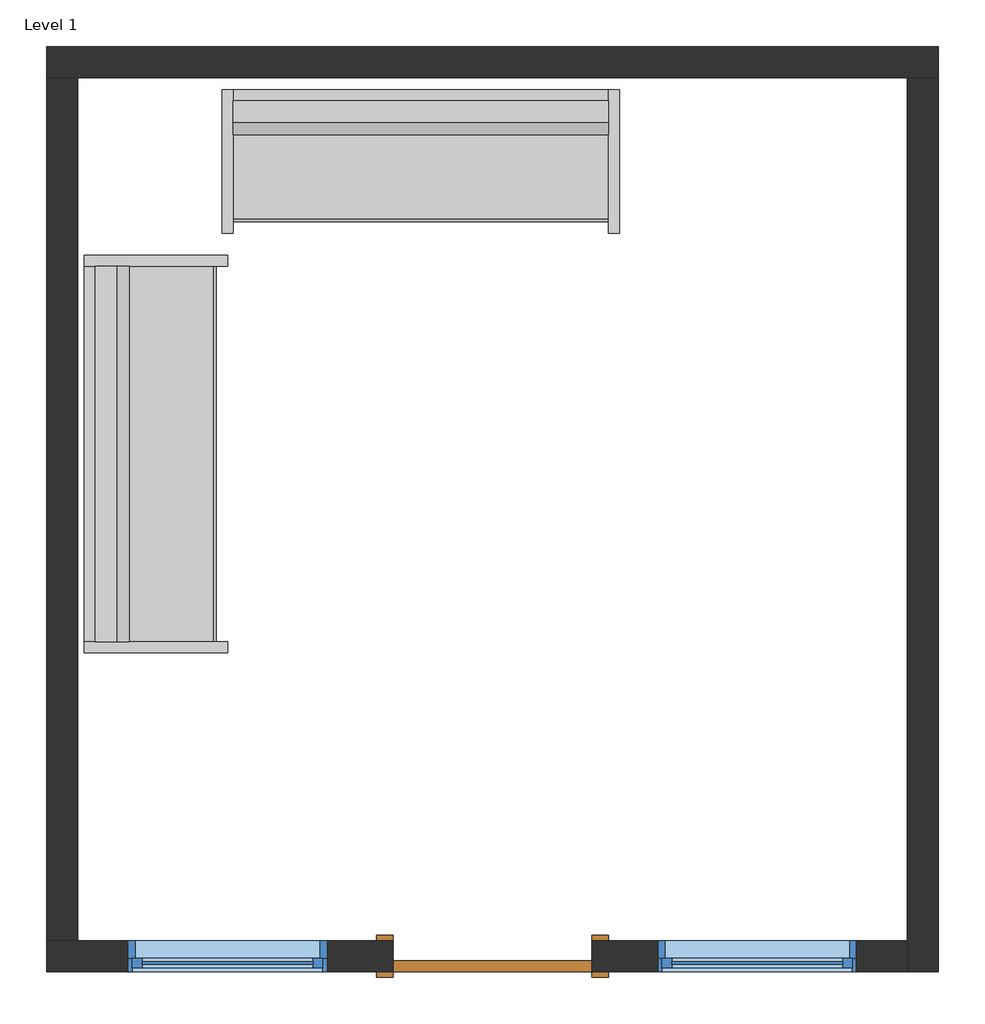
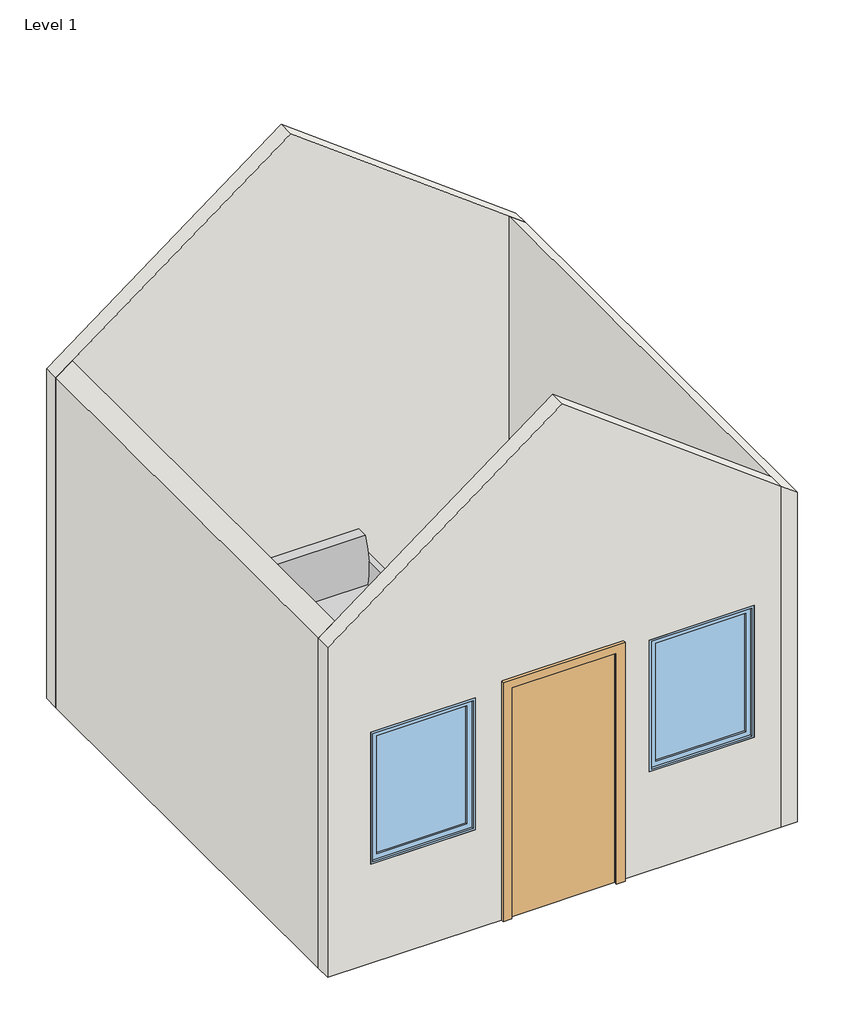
# One storey: 4 walls, 2 furniture elements, 2 windows, 1 door.
"""IFC4 building model written with IfcOpenShell, lengths in millimetres."""

import ifcopenshell
import ifcopenshell.guid

model = None  # the IFC model being written
_history = None  # IfcOwnerHistory: only IFC2X3 demands one
_inside = {}  # id of a spatial element -> (the spatial element, [elements in it])
_under = {}  # id of a project, library or spatial element -> (it, [spatial elements below it])
_declared = {}  # id of a project -> (the project, [libraries it declares])
_typed = {}  # id of a type object -> (the type object, [elements of that type])
_made_of = {}  # id of a material, layer set ... -> (it, [elements and type objects made of it])


def new_model(schema):
    """Start an empty IFC model of exactly this schema.

    Asked for "IFC4X3", IfcOpenShell would pick the latest addendum, in which some entities
    have other attributes; the version numbers below select the first issue.
    IFC2X3 requires an IfcOwnerHistory on every rooted entity: one is made here for all.
    """
    global model, _history
    if schema == "IFC4X3":
        model = ifcopenshell.file(schema_version=(4, 3, 0, 0))
    else:
        model = ifcopenshell.file(schema=schema)
    _inside.clear()
    _under.clear()
    _declared.clear()
    _typed.clear()
    _made_of.clear()
    _history = None
    if model.schema == "IFC2X3":
        org = make("IfcOrganization", Name="unknown")
        user = make(
            "IfcPersonAndOrganization",
            ThePerson=make("IfcPerson", FamilyName="unknown"),
            TheOrganization=org,
        )
        app = make(
            "IfcApplication",
            ApplicationDeveloper=org,
            Version="unknown",
            ApplicationFullName="unknown",
            ApplicationIdentifier="unknown",
        )
        _history = make(
            "IfcOwnerHistory",
            OwningUser=user,
            OwningApplication=app,
            ChangeAction="ADDED",
            CreationDate=0,
        )
    return model


def make(cls, **values):
    """One entity of the class cls with the attributes given. An attribute that is None is left unset."""
    return model.create_entity(
        cls, **{name: value for name, value in values.items() if value is not None}
    )


def rooted(cls, **values):
    """An entity with a GlobalId (a new one), such as an element, a storey or a relation."""
    return make(cls, GlobalId=ifcopenshell.guid.new(), OwnerHistory=_history, **values)


def si_unit(unit_type, name, prefix=None):
    """IfcSIUnit, for example si_unit("LENGTHUNIT", "METRE", prefix="MILLI")."""
    return make("IfcSIUnit", UnitType=unit_type, Prefix=prefix, Name=name)


def assignment(units):
    """IfcUnitAssignment: the units of a project."""
    return None if units is None else make("IfcUnitAssignment", Units=units)


def point(xyz):
    """IfcCartesianPoint."""
    return None if xyz is None else make("IfcCartesianPoint", Coordinates=xyz)


def direction(xyz):
    """IfcDirection."""
    return None if xyz is None else make("IfcDirection", DirectionRatios=xyz)


def frame(location, z_axis=None, x_axis=None):
    """IfcAxis2Placement3D, a coordinate frame: its origin and axes. An axis left out is left unset."""
    return make(
        "IfcAxis2Placement3D",
        Location=point(location),
        Axis=direction(z_axis),
        RefDirection=direction(x_axis),
    )


def frame_2d(location, x_axis=None):
    """IfcAxis2Placement2D, a coordinate frame in the plane: its origin and x axis."""
    return make(
        "IfcAxis2Placement2D", Location=point(location), RefDirection=direction(x_axis)
    )


def origin():
    """The frame at (0, 0, 0) with its axes left unset."""
    return frame((0.0, 0.0, 0.0))


def origin_with_axes():
    """The frame at (0, 0, 0) with the z axis (0, 0, 1) and the x axis (1, 0, 0) written out."""
    return frame((0.0, 0.0, 0.0), z_axis=(0.0, 0.0, 1.0), x_axis=(1.0, 0.0, 0.0))


def place(relative_to, where):
    """IfcLocalPlacement: puts the frame where relative to a parent placement (None: the world)."""
    return make(
        "IfcLocalPlacement", PlacementRelTo=relative_to, RelativePlacement=where
    )


def context(
    kind, dimensions, precision=None, world=None, true_north=None, identifier=None
):
    """IfcGeometricRepresentationContext, for example the 3D "Model" context."""
    return make(
        "IfcGeometricRepresentationContext",
        ContextIdentifier=identifier,
        ContextType=kind,
        CoordinateSpaceDimension=dimensions,
        Precision=precision,
        WorldCoordinateSystem=world,
        TrueNorth=true_north,
    )


def project(units=None, contexts=None):
    """IfcProject with its units and contexts."""
    return rooted(
        "IfcProject",
        Name="project",
        RepresentationContexts=contexts,
        UnitsInContext=assignment(units),
    )


def spatial(cls, under=None, at=None, **own):
    """A site, building, storey or space (cls), placed at a placement, below another one or the project."""
    s = rooted(cls, ObjectPlacement=at, **own)
    if under is not None:
        _under.setdefault(under.id(), (under, []))[1].append(s)
    return s


def polyline(points):
    """IfcPolyline through the points."""
    return make("IfcPolyline", Points=[point(p) for p in points])


def circle_curve(where, radius):
    """IfcCircle in the frame where."""
    return make("IfcCircle", Position=where, Radius=radius)


def trimmed(basis, trim1, trim2, sense, master):
    """IfcTrimmedCurve: the piece of a basis curve between two trims."""
    return make(
        "IfcTrimmedCurve",
        BasisCurve=basis,
        Trim1=trim1,
        Trim2=trim2,
        SenseAgreement=sense,
        MasterRepresentation=master,
    )


def segment(curve, same_sense, transition):
    """IfcCompositeCurveSegment."""
    return make(
        "IfcCompositeCurveSegment",
        Transition=transition,
        SameSense=same_sense,
        ParentCurve=curve,
    )


def composite_curve(segments, self_intersect=None):
    """IfcCompositeCurve: segments joined end to end."""
    return make("IfcCompositeCurve", Segments=segments, SelfIntersect=self_intersect)


def outline(outer, holes=None, kind="AREA"):
    """IfcArbitraryClosedProfileDef: a profile drawn as a closed curve; with holes, ...WithVoids."""
    if holes is None:
        return make("IfcArbitraryClosedProfileDef", ProfileType=kind, OuterCurve=outer)
    return make(
        "IfcArbitraryProfileDefWithVoids",
        ProfileType=kind,
        OuterCurve=outer,
        InnerCurves=holes,
    )


def extrude(swept, where, along, depth):
    """IfcExtrudedAreaSolid: the profile swept, set in the frame where, extruded along a direction by depth."""
    return make(
        "IfcExtrudedAreaSolid",
        SweptArea=swept,
        Position=where,
        ExtrudedDirection=direction(along),
        Depth=depth,
    )


def faces_of(points, faces, orient=None, outer=None):
    """IfcFace entities. A face is a list of loops; a loop is a list of indices into points, from 0.

    orient and outer hold one flag for each loop. By default every Orientation is true, the
    first loop of a face is its IfcFaceOuterBound and the others are IfcFaceBound.
    """
    made = []
    for i, loops in enumerate(faces):
        bounds = []
        for j, loop in enumerate(loops):
            is_outer = j == 0 if outer is None else outer[i][j]
            bounds.append(
                make(
                    "IfcFaceOuterBound" if is_outer else "IfcFaceBound",
                    Bound=make("IfcPolyLoop", Polygon=[points[k] for k in loop]),
                    Orientation=True if orient is None else orient[i][j],
                )
            )
        made.append(make("IfcFace", Bounds=bounds))
    return made


def faceted_brep(points, faces, orient=None, outer=None, voids=None):
    """IfcFacetedBrep: a solid bounded by flat faces; with voids (closed shells), ...WithVoids."""
    shared = [point(p) for p in points]
    hull = make("IfcClosedShell", CfsFaces=faces_of(shared, faces, orient, outer))
    if voids is None:
        return make("IfcFacetedBrep", Outer=hull)
    return make(
        "IfcFacetedBrepWithVoids",
        Outer=hull,
        Voids=[
            make(cls, CfsFaces=faces_of(shared, fs, o, b)) for cls, fs, o, b in voids
        ],
    )


def shape(context_of_items, identifier, shape_type, items):
    """IfcShapeRepresentation: the items that make up one representation, for example the "Body"."""
    return make(
        "IfcShapeRepresentation",
        ContextOfItems=context_of_items,
        RepresentationIdentifier=identifier,
        RepresentationType=shape_type,
        Items=items,
    )


def source(mapping_origin, context_of_items, identifier, shape_type, items):
    """IfcRepresentationMap: a shape defined once, which mapped items show again and again."""
    return make(
        "IfcRepresentationMap",
        MappingOrigin=mapping_origin,
        MappedRepresentation=shape(context_of_items, identifier, shape_type, items),
    )


def transform(
    local_origin,
    x_axis=None,
    y_axis=None,
    z_axis=None,
    scale=None,
    scale2=None,
    scale3=None,
    uniform=True,
):
    """IfcCartesianTransformationOperator3D, or its non-uniform kind. x_axis, y_axis, z_axis: its Axis1, 2, 3."""
    if uniform:
        return make(
            "IfcCartesianTransformationOperator3D",
            Axis1=direction(x_axis),
            Axis2=direction(y_axis),
            LocalOrigin=point(local_origin),
            Scale=scale,
            Axis3=direction(z_axis),
        )
    return make(
        "IfcCartesianTransformationOperator3DnonUniform",
        Axis1=direction(x_axis),
        Axis2=direction(y_axis),
        LocalOrigin=point(local_origin),
        Scale=scale,
        Axis3=direction(z_axis),
        Scale2=scale2,
        Scale3=scale3,
    )


def mapped(mapping_source, mapping_target):
    """IfcMappedItem: shows the shape of a source again, moved by a transform."""
    return make(
        "IfcMappedItem", MappingSource=mapping_source, MappingTarget=mapping_target
    )


def made_of(thing, what):
    """Note that an element or type object is made of a material, layer set ...; save() writes the relation."""
    if what is not None:
        _made_of.setdefault(what.id(), (what, []))[1].append(thing)
    return thing


def element(
    cls,
    number,
    at=None,
    inside=None,
    cuts=None,
    type_object=None,
    material=None,
    context=None,
    identifier="Body",
    shape_type=None,
    held_by="IfcProductDefinitionShape",
    body=None,
    shapes=None,
    **own,
):
    """One element of the class cls, such as IfcWall. Its Tag is "e" and its number.

    at: its placement. inside: the storey or other place that contains it. cuts: it is an
    opening in that element (IfcRelVoidsElement). A single representation is given by context,
    identifier, shape_type and body (its items); several are given by shapes. held_by: the class
    of the entity that holds the representations. save() writes the other relations.
    """
    e = rooted(cls, Tag="e%d" % number, ObjectPlacement=at, **own)
    if body is not None:
        shapes = [shape(context, identifier, shape_type, body)]
    if shapes is not None:
        e.Representation = make(held_by, Representations=shapes)
    if inside is not None:
        _inside.setdefault(inside.id(), (inside, []))[1].append(e)
    if cuts is not None:
        rooted(
            "IfcRelVoidsElement", RelatingBuildingElement=cuts, RelatedOpeningElement=e
        )
    if type_object is not None:
        _typed.setdefault(type_object.id(), (type_object, []))[1].append(e)
    return made_of(e, material)


def aggregate(whole, parts):
    """IfcRelAggregates: a whole, such as a stair, and the parts it consists of."""
    return rooted("IfcRelAggregates", RelatingObject=whole, RelatedObjects=parts)


def save(model, path):
    """Write the relations noted so far, then the file.

    IfcRelAggregates (storeys below a building ...), IfcRelContainedInSpatialStructure (elements
    in a storey), IfcRelDefinesByType, IfcRelAssociatesMaterial and IfcRelDeclares: one each for
    every whole, place, type object, material and project.
    """
    for whole, parts in _under.values():
        aggregate(whole, parts)
    for where, things in _inside.values():
        rooted(
            "IfcRelContainedInSpatialStructure",
            RelatedElements=things,
            RelatingStructure=where,
        )
    for kind, things in _typed.values():
        rooted("IfcRelDefinesByType", RelatedObjects=things, RelatingType=kind)
    for what, things in _made_of.values():
        rooted("IfcRelAssociatesMaterial", RelatedObjects=things, RelatingMaterial=what)
    for by, libraries in _declared.values():
        rooted("IfcRelDeclares", RelatingContext=by, RelatedDefinitions=libraries)
    model.write(path)


def door_3dff5d0e(model_context):
    return source(origin(), model_context, "Body", "SweptSolid", [
        extrude(outline(polyline([(2209.8, -533.4), (0.0, -533.4), (0.0, -457.2), (2133.6, -457.2), (2133.6, 457.2), (0.0, 457.2), (0.0, 533.4), (2209.8, 533.4), (2209.8, -533.4)])), frame((0.0, 71.4375, 0.0), z_axis=(0.0, 1.0, 0.0), x_axis=(0.0, 0.0, 1.0)), (0.0, 0.0, 1.0), 25.4),
        extrude(outline(polyline([(2209.8, 533.4), (2209.8, -533.4), (0.0, -533.4), (0.0, -457.2), (2133.6, -457.2), (2133.6, 457.2), (0.0, 457.2), (0.0, 533.4), (2209.8, 533.4)])), frame((0.0, -96.8375, 0.0), z_axis=(0.0, 1.0, 0.0), x_axis=(0.0, 0.0, 1.0)), (0.0, 0.0, 1.0), 25.4),
        extrude(outline(polyline([(457.2, 20.6375), (-457.2, 20.6375), (-457.2, 71.4375), (457.2, 71.4375), (457.2, 20.6375)])), origin_with_axes(), (0.0, 0.0, 1.0), 2133.6),
    ])


def furniture_a4ffab56(model_context):
    return source(origin(), model_context, "Body", "SweptSolid", [
        extrude(outline(polyline([(-793.2295082, 425.5540984), (-793.2295082, 476.3540984), (933.9704918, 476.3540984), (933.9704918, 425.5540984), (-793.2295082, 425.5540984)])), frame((0.0, 0.0, 457.2), z_axis=(0.0, 0.0, 1.0), x_axis=(1.0, 0.0, 0.0)), (0.0, 0.0, 1.0), 127.0),
        extrude(outline(polyline([(-793.2295082, 425.5540984), (-793.2295082, 476.3540984), (933.9704918, 476.3540984), (933.9704918, 425.5540984), (-793.2295082, 425.5540984)])), frame((0.0, 0.0, 266.7), z_axis=(0.0, 0.0, 1.0), x_axis=(1.0, 0.0, 0.0)), (0.0, 0.0, 1.0), 127.0),
        extrude(outline(polyline([(-793.2295082, 425.5540984), (-793.2295082, 476.3540984), (933.9704918, 476.3540984), (933.9704918, 425.5540984), (-793.2295082, 425.5540984)])), frame((0.0, 0.0, 76.2), z_axis=(0.0, 0.0, 1.0), x_axis=(1.0, 0.0, 0.0)), (0.0, 0.0, 1.0), 127.0),
        extrude(outline(composite_curve([segment(trimmed(circle_curve(frame_2d((926.517198, 542.5300036)), 660.4), [point((286.1764935, 381.0))], [point((323.9540984, 812.8))], False, "CARTESIAN"), True, "CONTINUOUS"), segment(polyline([(323.9540984, 812.8), (425.5540984, 812.8), (425.5540984, 127.9665467), (-111.108343, 127.9665467), (-132.0379563, 367.1931221)]), True, "CONTINUOUS"), segment(trimmed(circle_curve(frame_2d((-119.3862837, 368.3)), 12.7), [point((-132.0379563, 367.1931221))], [point((-119.3862837, 381.0))], False, "CARTESIAN"), True, "CONTINUOUS"), segment(polyline([(-119.3862837, 381.0), (286.1764935, 381.0)]), True, "CONTINUOUS")], self_intersect=False)), frame((-793.2295082, 0.0, 0.0), z_axis=(1.0, 0.0, 0.0), x_axis=(0.0, 1.0, 0.0)), (0.0, 0.0, 1.0), 1727.2),
        extrude(outline(polyline([(-844.0295082, 476.3540984), (-793.2295082, 476.3540984), (-793.2295082, -184.0459016), (-844.0295082, -184.0459016), (-844.0295082, 476.3540984)])), origin_with_axes(), (0.0, 0.0, 1.0), 609.6),
        extrude(outline(polyline([(984.7704918, 476.3540984), (984.7704918, -184.0459016), (933.9704918, -184.0459016), (933.9704918, 476.3540984), (984.7704918, 476.3540984)])), origin_with_axes(), (0.0, 0.0, 1.0), 609.6),
    ])


def window_51b933d5(model_context):
    return source(origin(), model_context, "Body", "SweptSolid", [
        extrude(outline(polyline([(355.6, 23.8125), (-431.8, 23.8125), (-431.8, 36.5125), (355.6, 36.5125), (355.6, 23.8125)])), frame((0.0, 0.0, 977.9), z_axis=(0.0, 0.0, 1.0), x_axis=(1.0, 0.0, 0.0)), (0.0, 0.0, 1.0), 1092.2),
        extrude(outline(polyline([(2114.55, -476.25), (933.45, -476.25), (933.45, 400.05), (2114.55, 400.05), (2114.55, -476.25)]), holes=[polyline([(2070.1, -431.8), (2070.1, 355.6), (977.9, 355.6), (977.9, -431.8), (2070.1, -431.8)])]), frame((0.0, 7.9375, 0.0), z_axis=(0.0, 1.0, 0.0), x_axis=(0.0, 0.0, 1.0)), (0.0, 0.0, 1.0), 44.45),
        extrude(outline(polyline([(2133.6, -495.3), (914.4, -495.3), (914.4, 419.1), (2133.6, 419.1), (2133.6, -495.3)]), holes=[polyline([(2101.85, -463.55), (2101.85, 387.35), (946.15, 387.35), (946.15, -463.55), (2101.85, -463.55)])]), frame((0.0, -71.4375, 0.0), z_axis=(0.0, 1.0, 0.0), x_axis=(0.0, 0.0, 1.0)), (0.0, 0.0, 1.0), 79.375),
        extrude(outline(polyline([(2133.6, 419.1), (2133.6, -495.3), (914.4, -495.3), (914.4, 419.1), (2133.6, 419.1)]), holes=[polyline([(2114.55, 400.05), (933.45, 400.05), (933.45, -476.25), (2114.55, -476.25), (2114.55, 400.05)])]), frame((0.0, 7.9375, 0.0), z_axis=(0.0, 1.0, 0.0), x_axis=(0.0, 0.0, 1.0)), (0.0, 0.0, 1.0), 63.5),
    ])


model = new_model("IFC4")

# Units and contexts
model_context = context("Model", 3, world=origin())
ifc_project = project(units=[si_unit("LENGTHUNIT", "METRE", prefix="MILLI")], contexts=[model_context])

# Site, building, storey
site = spatial("IfcSite", under=ifc_project)
building = spatial("IfcBuilding", under=site)
storey = spatial("IfcBuildingStorey", under=building, Name="Level 1", Elevation=0.0)

# Door
placement = place(None, origin())
door_shape = door_3dff5d0e(model_context)
element("IfcDoor", 1, ObjectType="Single-Flush : 36\" x 84\"", at=placement, inside=storey, context=model_context, shape_type="MappedRepresentation", body=[
    mapped(door_shape, transform((3359.7334534, 3318.3096995, 0.0), x_axis=(-1.0, 0.0, 0.0), y_axis=(0.0, -1.0, 0.0), z_axis=(0.0, 0.0, 1.0))),
])

# Furniture
furniture_shape = furniture_a4ffab56(model_context)
element("IfcFurniture", 2, ObjectType="Sofa : 72\"", at=placement, inside=storey, context=model_context, shape_type="MappedRepresentation", body=[
    mapped(furniture_shape, transform((2959.1629616, 6829.7556011, 0.0), x_axis=(1.0, 0.0, 0.0), y_axis=(0.0, 1.0, 0.0), z_axis=(0.0, 0.0, 1.0))),
])
element("IfcFurniture", 3, ObjectType="Sofa : 72\"", at=placement, inside=storey, context=model_context, shape_type="MappedRepresentation", body=[
    mapped(furniture_shape, transform((1956.4875517, 5559.3392077, 0.0), x_axis=(0.0, 1.0, 0.0), y_axis=(-1.0, 0.0, 0.0), z_axis=(0.0, 0.0, 1.0))),
])

# Walls
element("IfcWall", 4, ObjectType="Generic - 6\" Masonry", at=placement, inside=storey, context=model_context, shape_type="Brep", body=[
    faceted_brep([(1307.0959534, 7361.6721995, 0.0), (1449.9709534, 7361.6721995, 0.0), (5269.4959534, 7361.6721995, 0.0), (5412.3709534, 7361.6721995, 0.0), (5412.3709534, 7361.6721995, 3048.0), (5269.4959534, 7361.6721995, 3155.15625), (3359.7334534, 7361.6721995, 4587.478125), (1449.9709534, 7361.6721995, 3155.15625), (1307.0959534, 7361.6721995, 3048.0), (1307.0959534, 7504.5471995, 0.0), (1307.0959534, 7504.5471995, 3048.0), (3359.7334534, 7504.5471995, 4587.478125), (5412.3709534, 7504.5471995, 3048.0), (5412.3709534, 7504.5471995, 0.0)], [[[0, 1, 2, 3, 4, 5, 6, 7, 8]], [[9, 10, 11, 12, 13]], [[3, 2, 1, 0, 9, 13]], [[4, 3, 13, 12]], [[0, 8, 10, 9]], [[8, 7, 6, 11, 10]], [[6, 5, 4, 12, 11]]]),
])
element("IfcWall", 5, ObjectType="Generic - 6\" Masonry", at=placement, inside=storey, context=model_context, shape_type="Brep", body=[
    faceted_brep([(5269.4959534, 7361.6721995, 0.0), (5269.4959534, 3389.7471995, 0.0), (5269.4959534, 3246.8721995, 0.0), (5269.4959534, 3246.8721995, 3155.15625), (5269.4959534, 3389.7471995, 3155.15625), (5269.4959534, 7361.6721995, 3155.15625), (5412.3709534, 7361.6721995, 0.0), (5412.3709534, 7361.6721995, 3048.0), (5412.3709534, 3246.8721995, 3048.0), (5412.3709534, 3246.8721995, 0.0)], [[[0, 1, 2, 3, 4, 5]], [[6, 7, 8, 9]], [[2, 1, 0, 6, 9]], [[0, 5, 7, 6]], [[3, 2, 9, 8]], [[5, 4, 3, 8, 7]]]),
])
element("IfcWall", 6, ObjectType="Generic - 6\" Masonry", at=placement, inside=storey, context=model_context, shape_type="Brep", body=[
    faceted_brep([(2902.5334534, 3389.7471995, 2133.6), (2902.5334534, 3389.7471995, 0.0), (1449.9709534, 3389.7471995, 0.0), (1307.0959534, 3389.7471995, 0.0), (1307.0959534, 3389.7471995, 3048.0), (1449.9709534, 3389.7471995, 3155.15625), (3359.7334534, 3389.7471995, 4587.478125), (5269.4959534, 3389.7471995, 3155.15625), (5269.4959534, 3389.7471995, 0.0), (3816.9334534, 3389.7471995, 0.0), (3816.9334534, 3389.7471995, 2133.6), (1683.3334534, 3389.7471995, 2133.6), (1683.3334534, 3389.7471995, 914.4), (2597.7334534, 3389.7471995, 914.4), (2597.7334534, 3389.7471995, 2133.6), (4121.7334534, 3389.7471995, 2133.6), (4121.7334534, 3389.7471995, 914.4), (5036.1334534, 3389.7471995, 914.4), (5036.1334534, 3389.7471995, 2133.6), (1307.0959534, 3246.8721995, 0.0), (2902.5334534, 3246.8721995, 0.0), (2902.5334534, 3246.8721995, 2133.6), (3816.9334534, 3246.8721995, 2133.6), (3816.9334534, 3246.8721995, 0.0), (5269.4959534, 3246.8721995, 0.0), (5269.4959534, 3246.8721995, 3155.15625), (3359.7334534, 3246.8721995, 4587.478125), (1307.0959534, 3246.8721995, 3048.0), (1683.3334534, 3246.8721995, 2133.6), (2597.7334534, 3246.8721995, 2133.6), (2597.7334534, 3246.8721995, 914.4), (1683.3334534, 3246.8721995, 914.4), (4121.7334534, 3246.8721995, 2133.6), (5036.1334534, 3246.8721995, 2133.6), (5036.1334534, 3246.8721995, 914.4), (4121.7334534, 3246.8721995, 914.4)], [[[0, 1, 2, 3, 4, 5, 6, 7, 8, 9, 10], [11, 12, 13, 14], [15, 16, 17, 18]], [[19, 20, 21, 22, 23, 24, 25, 26, 27], [28, 29, 30, 31], [32, 33, 34, 35]], [[9, 8, 24, 23]], [[3, 2, 1, 20, 19]], [[8, 7, 25, 24]], [[4, 3, 19, 27]], [[7, 6, 26, 25]], [[6, 5, 4, 27, 26]], [[21, 20, 1, 0]], [[22, 21, 0, 10]], [[23, 22, 10, 9]], [[12, 11, 28, 31]], [[13, 12, 31, 30]], [[14, 13, 30, 29]], [[11, 14, 29, 28]], [[16, 15, 32, 35]], [[17, 16, 35, 34]], [[18, 17, 34, 33]], [[15, 18, 33, 32]]]),
])
element("IfcWall", 7, ObjectType="Generic - 6\" Masonry", at=placement, inside=storey, context=model_context, shape_type="SweptSolid", body=[
    extrude(outline(polyline([(3048.0, 1307.0959534), (0.0, 1307.0959534), (0.0, 1449.9709534), (3155.15625, 1449.9709534), (3048.0, 1307.0959534)])), frame((0.0, 3389.7471995, 0.0), z_axis=(0.0, 1.0, 0.0), x_axis=(0.0, 0.0, 1.0)), (0.0, 0.0, 1.0), 3971.925),
])

# Windows
window_shape = window_51b933d5(model_context)
element("IfcWindow", 8, ObjectType="Fixed : 36\" x 48\"", at=placement, inside=storey, context=model_context, shape_type="MappedRepresentation", body=[
    mapped(window_shape, transform((2102.4334534, 3318.3096995, 0.0), x_axis=(-1.0, 0.0, 0.0), y_axis=(0.0, -1.0, 0.0), z_axis=(0.0, 0.0, 1.0))),
])
element("IfcWindow", 9, ObjectType="Fixed : 36\" x 48\"", at=placement, inside=storey, context=model_context, shape_type="MappedRepresentation", body=[
    mapped(window_shape, transform((4540.8334534, 3318.3096995, 0.0), x_axis=(-1.0, 0.0, 0.0), y_axis=(0.0, -1.0, 0.0), z_axis=(0.0, 0.0, 1.0))),
])

save(model, "model.ifc")
